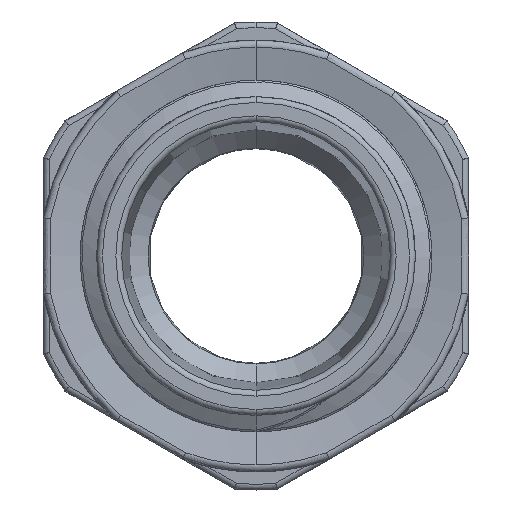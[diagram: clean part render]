
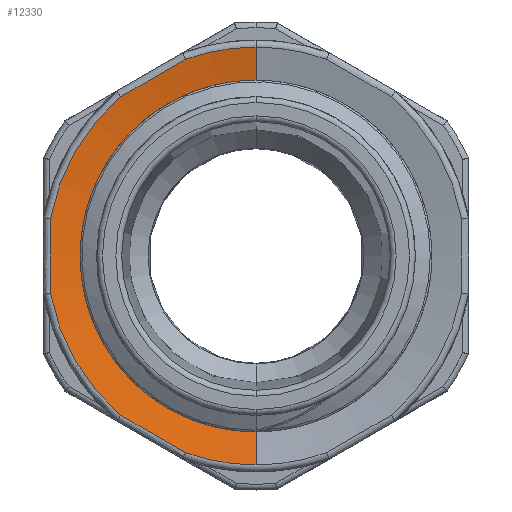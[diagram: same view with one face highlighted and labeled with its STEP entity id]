
A CAD part, front view. The second image highlights one B-rep face of the part: STEP entity #12330.
In plain terms, the highlighted conical face has half-angle 78.311 degrees and reference radius 11.075 mm.
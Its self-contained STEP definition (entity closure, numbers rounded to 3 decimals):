
#232 = ORIENTED_EDGE ( 'NONE', *, *, #3949, .F. ) ;
#260 = AXIS2_PLACEMENT_3D ( 'NONE', #13927, #4240, #1749 ) ;
#530 = EDGE_LOOP ( 'NONE', ( #10176, #10920, #9354, #16244, #4666, #7569, #12913, #2316, #3507, #232 ) ) ;
#937 = LINE ( 'NONE', #14614, #10437 ) ;
#1698 = CARTESIAN_POINT ( 'NONE',  ( -5.825, 9.523, -8.806 ) ) ;
#1725 = VERTEX_POINT ( 'NONE', #12756 ) ;
#1749 = DIRECTION ( 'NONE',  ( 0., 0., 1. ) ) ;
#2145 = DIRECTION ( 'NONE',  ( 0., -1., 0. ) ) ;
#2316 = ORIENTED_EDGE ( 'NONE', *, *, #14607, .T. ) ;
#3179 = CARTESIAN_POINT ( 'NONE',  ( -5.825, 9.523, 8.806 ) ) ;
#3299 = CARTESIAN_POINT ( 'NONE',  ( -4.714, 9.523, -9.448 ) ) ;
#3415 = EDGE_CURVE ( 'NONE', #4845, #13025, #6173, .T. ) ;
#3465 = CARTESIAN_POINT ( 'NONE',  ( 0., 9.475, 10.714 ) ) ;
#3507 = ORIENTED_EDGE ( 'NONE', *, *, #5962, .T. ) ;
#3797 = CARTESIAN_POINT ( 'NONE',  ( 0., 9.475, 0. ) ) ;
#3812 = EDGE_CURVE ( 'NONE', #4643, #6407, #937, .T. ) ;
#3949 = EDGE_CURVE ( 'NONE', #13214, #8595, #12638, .T. ) ;
#3952 = CIRCLE ( 'NONE', #16996, 10.714 ) ;
#4240 = DIRECTION ( 'NONE',  ( 0., -1., 0. ) ) ;
#4643 = VERTEX_POINT ( 'NONE', #16932 ) ;
#4666 = ORIENTED_EDGE ( 'NONE', *, *, #13661, .T. ) ;
#4767 = AXIS2_PLACEMENT_3D ( 'NONE', #8906, #2145, #8644 ) ;
#4845 = VERTEX_POINT ( 'NONE', #16742 ) ;
#4890 = FACE_OUTER_BOUND ( 'NONE', #530, .T. ) ;
#5022 = DIRECTION ( 'NONE',  ( 0., -1., 0. ) ) ;
#5118 = AXIS2_PLACEMENT_3D ( 'NONE', #5668, #12420, #6735 ) ;
#5120 = CARTESIAN_POINT ( 'NONE',  ( 0., 9.475, 0. ) ) ;
#5668 = CARTESIAN_POINT ( 'NONE',  ( 0., 9.851, 0. ) ) ;
#5688 = CIRCLE ( 'NONE', #5118, 8.897 ) ;
#5739 = AXIS2_PLACEMENT_3D ( 'NONE', #6941, #12367, #5867 ) ;
#5867 = DIRECTION ( 'NONE',  ( 0., 0., 1. ) ) ;
#5962 = EDGE_CURVE ( 'NONE', #16229, #8595, #8594, .T. ) ;
#6173 = CIRCLE ( 'NONE', #13831, 10.714 ) ;
#6407 = VERTEX_POINT ( 'NONE', #3465 ) ;
#6735 = DIRECTION ( 'NONE',  ( 0., 0., -1. ) ) ;
#6941 = CARTESIAN_POINT ( 'NONE',  ( 0., 9.475, 0. ) ) ;
#7206 = B_SPLINE_CURVE_WITH_KNOTS ( 'NONE', 3,
 ( #13759, #15276, #3179, #8249 ),
 .UNSPECIFIED., .F., .F.,
 ( 4, 4 ),
 ( 0., 0.004 ),
 .UNSPECIFIED. ) ;
#7487 = B_SPLINE_CURVE_WITH_KNOTS ( 'NONE', 3,
 ( #13873, #1698, #3299, #14053 ),
 .UNSPECIFIED., .F., .F.,
 ( 4, 4 ),
 ( 0., 0.004 ),
 .UNSPECIFIED. ) ;
#7569 = ORIENTED_EDGE ( 'NONE', *, *, #17123, .T. ) ;
#7845 = CARTESIAN_POINT ( 'NONE',  ( 0., 9.475, -10.714 ) ) ;
#7927 = VECTOR ( 'NONE', #9888, 1000. ) ;
#8014 = EDGE_CURVE ( 'NONE', #1725, #17491, #7206, .T. ) ;
#8249 = CARTESIAN_POINT ( 'NONE',  ( -6.936, 9.475, 8.167 ) ) ;
#8594 = CIRCLE ( 'NONE', #5739, 10.714 ) ;
#8595 = VERTEX_POINT ( 'NONE', #7845 ) ;
#8644 = DIRECTION ( 'NONE',  ( 0., 0., -1. ) ) ;
#8775 = CARTESIAN_POINT ( 'NONE',  ( -10.54, 9.475, 1.923 ) ) ;
#8906 = CARTESIAN_POINT ( 'NONE',  ( 0., 9.4, 0. ) ) ;
#8913 = CARTESIAN_POINT ( 'NONE',  ( 0., 9.851, -8.897 ) ) ;
#8952 = CARTESIAN_POINT ( 'NONE',  ( -10.54, 9.475, -1.923 ) ) ;
#9100 = CARTESIAN_POINT ( 'NONE',  ( -6.936, 9.475, -8.167 ) ) ;
#9354 = ORIENTED_EDGE ( 'NONE', *, *, #11716, .T. ) ;
#9888 = DIRECTION ( 'NONE',  ( 0., -0.203, -0.979 ) ) ;
#10176 = ORIENTED_EDGE ( 'NONE', *, *, #15796, .F. ) ;
#10187 = CARTESIAN_POINT ( 'NONE',  ( -10.539, 9.523, 0.642 ) ) ;
#10437 = VECTOR ( 'NONE', #13262, 1000. ) ;
#10920 = ORIENTED_EDGE ( 'NONE', *, *, #3812, .T. ) ;
#10989 = CARTESIAN_POINT ( 'NONE',  ( -10.54, 9.475, 1.923 ) ) ;
#11716 = EDGE_CURVE ( 'NONE', #6407, #1725, #12745, .T. ) ;
#12050 = DIRECTION ( 'NONE',  ( 0., -1., 0. ) ) ;
#12330 = ADVANCED_FACE ( 'NONE', ( #4890 ), #12427, .F. ) ;
#12367 = DIRECTION ( 'NONE',  ( 0., -1., 0. ) ) ;
#12420 = DIRECTION ( 'NONE',  ( 0., -1., 0. ) ) ;
#12427 = CONICAL_SURFACE ( 'NONE', #4767, 11.075, 1.367 ) ;
#12462 = CARTESIAN_POINT ( 'NONE',  ( 0., 9.4, -11.075 ) ) ;
#12638 = LINE ( 'NONE', #12462, #7927 ) ;
#12745 = CIRCLE ( 'NONE', #260, 10.714 ) ;
#12756 = CARTESIAN_POINT ( 'NONE',  ( -3.605, 9.475, 10.09 ) ) ;
#12913 = ORIENTED_EDGE ( 'NONE', *, *, #3415, .T. ) ;
#13025 = VERTEX_POINT ( 'NONE', #9100 ) ;
#13214 = VERTEX_POINT ( 'NONE', #8913 ) ;
#13262 = DIRECTION ( 'NONE',  ( 0., -0.203, 0.979 ) ) ;
#13285 = DIRECTION ( 'NONE',  ( 0., 0., 1. ) ) ;
#13661 = EDGE_CURVE ( 'NONE', #17491, #13722, #3952, .T. ) ;
#13722 = VERTEX_POINT ( 'NONE', #10989 ) ;
#13759 = CARTESIAN_POINT ( 'NONE',  ( -3.605, 9.475, 10.09 ) ) ;
#13831 = AXIS2_PLACEMENT_3D ( 'NONE', #5120, #5022, #13285 ) ;
#13873 = CARTESIAN_POINT ( 'NONE',  ( -6.936, 9.475, -8.167 ) ) ;
#13927 = CARTESIAN_POINT ( 'NONE',  ( 0., 9.475, 0. ) ) ;
#14053 = CARTESIAN_POINT ( 'NONE',  ( -3.605, 9.475, -10.09 ) ) ;
#14351 = CARTESIAN_POINT ( 'NONE',  ( -3.605, 9.475, -10.09 ) ) ;
#14607 = EDGE_CURVE ( 'NONE', #13025, #16229, #7487, .T. ) ;
#14614 = CARTESIAN_POINT ( 'NONE',  ( 0., 9.4, 11.075 ) ) ;
#15270 = B_SPLINE_CURVE_WITH_KNOTS ( 'NONE', 3,
 ( #8775, #10187, #15629, #8952 ),
 .UNSPECIFIED., .F., .F.,
 ( 4, 4 ),
 ( 0., 0.004 ),
 .UNSPECIFIED. ) ;
#15276 = CARTESIAN_POINT ( 'NONE',  ( -4.714, 9.523, 9.448 ) ) ;
#15437 = CARTESIAN_POINT ( 'NONE',  ( -6.936, 9.475, 8.167 ) ) ;
#15629 = CARTESIAN_POINT ( 'NONE',  ( -10.539, 9.523, -0.642 ) ) ;
#15796 = EDGE_CURVE ( 'NONE', #4643, #13214, #5688, .T. ) ;
#15886 = DIRECTION ( 'NONE',  ( 0., 0., 1. ) ) ;
#16229 = VERTEX_POINT ( 'NONE', #14351 ) ;
#16244 = ORIENTED_EDGE ( 'NONE', *, *, #8014, .T. ) ;
#16742 = CARTESIAN_POINT ( 'NONE',  ( -10.54, 9.475, -1.923 ) ) ;
#16932 = CARTESIAN_POINT ( 'NONE',  ( 0., 9.851, 8.897 ) ) ;
#16996 = AXIS2_PLACEMENT_3D ( 'NONE', #3797, #12050, #15886 ) ;
#17123 = EDGE_CURVE ( 'NONE', #13722, #4845, #15270, .T. ) ;
#17491 = VERTEX_POINT ( 'NONE', #15437 ) ;
